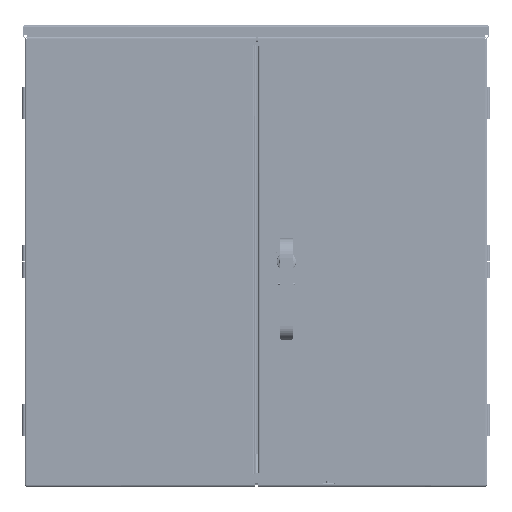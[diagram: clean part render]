
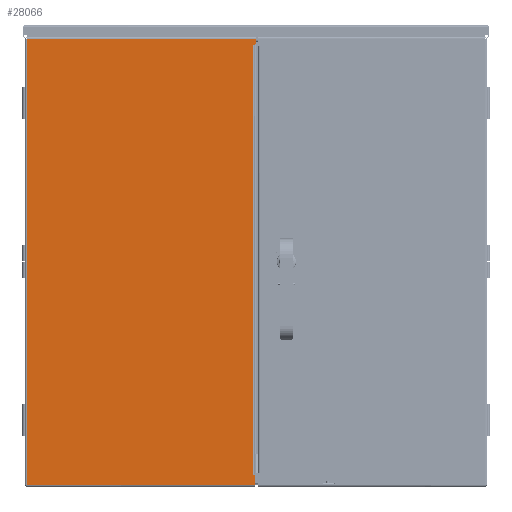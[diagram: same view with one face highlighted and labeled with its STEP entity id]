
A CAD part, top view. The second image highlights one B-rep face of the part: STEP entity #28066.
In plain terms, the highlighted planar face has unit normal (0, 0, 1).
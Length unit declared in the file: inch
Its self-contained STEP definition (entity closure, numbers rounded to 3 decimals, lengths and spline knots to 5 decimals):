
#349 = FACE_OUTER_BOUND ( 'NONE', #35781, .T. ) ;
#12725 = CARTESIAN_POINT ( 'NONE',  ( -9.0875, -17.675, 0. ) ) ;
#12730 = PLANE ( 'NONE',  #56717 ) ;
#12735 = DIRECTION ( 'NONE',  ( 0., 0., 1. ) ) ;
#12736 = DIRECTION ( 'NONE',  ( 1., 0., 0. ) ) ;
#28066 = ADVANCED_FACE ( 'NONE', ( #349 ), #12730, .T. ) ;
#32829 = VERTEX_POINT ( 'NONE', #67782 ) ;
#32831 = VERTEX_POINT ( 'NONE', #67783 ) ;
#32855 = VERTEX_POINT ( 'NONE', #67795 ) ;
#32857 = VERTEX_POINT ( 'NONE', #67796 ) ;
#32859 = VERTEX_POINT ( 'NONE', #67797 ) ;
#32861 = VERTEX_POINT ( 'NONE', #67798 ) ;
#32863 = VERTEX_POINT ( 'NONE', #67799 ) ;
#32865 = VERTEX_POINT ( 'NONE', #67800 ) ;
#32867 = VERTEX_POINT ( 'NONE', #67801 ) ;
#32869 = VERTEX_POINT ( 'NONE', #67802 ) ;
#35189 = ORIENTED_EDGE ( 'NONE', *, *, #36688, .T. ) ;
#35190 = ORIENTED_EDGE ( 'NONE', *, *, #36687, .T. ) ;
#35191 = ORIENTED_EDGE ( 'NONE', *, *, #36684, .T. ) ;
#35192 = ORIENTED_EDGE ( 'NONE', *, *, #36689, .T. ) ;
#35193 = ORIENTED_EDGE ( 'NONE', *, *, #36685, .T. ) ;
#35194 = ORIENTED_EDGE ( 'NONE', *, *, #36674, .T. ) ;
#35195 = ORIENTED_EDGE ( 'NONE', *, *, #36690, .T. ) ;
#35196 = ORIENTED_EDGE ( 'NONE', *, *, #36692, .T. ) ;
#35197 = ORIENTED_EDGE ( 'NONE', *, *, #36686, .T. ) ;
#35198 = ORIENTED_EDGE ( 'NONE', *, *, #36691, .T. ) ;
#35781 = EDGE_LOOP ( 'NONE', ( #35189, #35190, #35191, #35192, #35193, #35194, #35195, #35196, #35197, #35198 ) ) ;
#36674 = EDGE_CURVE ( 'NONE', #32829, #32831, #60042, .T. ) ;
#36684 = EDGE_CURVE ( 'NONE', #32859, #32861, #60065, .T. ) ;
#36685 = EDGE_CURVE ( 'NONE', #32863, #32829, #60067, .T. ) ;
#36686 = EDGE_CURVE ( 'NONE', #32867, #32869, #60069, .T. ) ;
#36687 = EDGE_CURVE ( 'NONE', #32857, #32859, #60071, .T. ) ;
#36688 = EDGE_CURVE ( 'NONE', #32855, #32857, #60073, .T. ) ;
#36689 = EDGE_CURVE ( 'NONE', #32861, #32863, #60075, .T. ) ;
#36690 = EDGE_CURVE ( 'NONE', #32831, #32865, #60077, .T. ) ;
#36691 = EDGE_CURVE ( 'NONE', #32869, #32855, #60079, .T. ) ;
#36692 = EDGE_CURVE ( 'NONE', #32865, #32867, #60081, .T. ) ;
#56717 = AXIS2_PLACEMENT_3D ( 'NONE', #12725, #12735, #12736 ) ;
#60038 = VECTOR ( 'NONE', #68755, 39.37008 ) ;
#60042 = LINE ( 'NONE', #68754, #60038 ) ;
#60065 = LINE ( 'NONE', #68774, #60066 ) ;
#60066 = VECTOR ( 'NONE', #68775, 39.37008 ) ;
#60067 = LINE ( 'NONE', #68776, #60068 ) ;
#60068 = VECTOR ( 'NONE', #68777, 39.37008 ) ;
#60069 = LINE ( 'NONE', #68778, #60070 ) ;
#60070 = VECTOR ( 'NONE', #68779, 39.37008 ) ;
#60071 = LINE ( 'NONE', #68780, #60072 ) ;
#60072 = VECTOR ( 'NONE', #68781, 39.37008 ) ;
#60073 = LINE ( 'NONE', #68782, #60074 ) ;
#60074 = VECTOR ( 'NONE', #68783, 39.37008 ) ;
#60075 = LINE ( 'NONE', #68784, #60076 ) ;
#60076 = VECTOR ( 'NONE', #68785, 39.37008 ) ;
#60077 = LINE ( 'NONE', #68786, #60078 ) ;
#60078 = VECTOR ( 'NONE', #68787, 39.37008 ) ;
#60079 = LINE ( 'NONE', #68788, #60080 ) ;
#60080 = VECTOR ( 'NONE', #68789, 39.37008 ) ;
#60081 = LINE ( 'NONE', #68790, #60082 ) ;
#60082 = VECTOR ( 'NONE', #68791, 39.37008 ) ;
#67782 = CARTESIAN_POINT ( 'NONE',  ( 8.8355, 17.04, 0. ) ) ;
#67783 = CARTESIAN_POINT ( 'NONE',  ( 8.9865, 17.04, 0. ) ) ;
#67795 = CARTESIAN_POINT ( 'NONE',  ( -8.9355, 17.523, 0. ) ) ;
#67796 = CARTESIAN_POINT ( 'NONE',  ( -8.9355, -17.523, 0. ) ) ;
#67797 = CARTESIAN_POINT ( 'NONE',  ( 8.9875, -17.523, 0. ) ) ;
#67798 = CARTESIAN_POINT ( 'NONE',  ( 8.9875, -16.74034, 0. ) ) ;
#67799 = CARTESIAN_POINT ( 'NONE',  ( 8.8355, -16.74034, 0. ) ) ;
#67800 = CARTESIAN_POINT ( 'NONE',  ( 8.9865, 17.105, 0. ) ) ;
#67801 = CARTESIAN_POINT ( 'NONE',  ( 9.0875, 17.105, 0. ) ) ;
#67802 = CARTESIAN_POINT ( 'NONE',  ( 9.0875, 17.523, 0. ) ) ;
#68754 = CARTESIAN_POINT ( 'NONE',  ( -9.0875, 17.04, 0. ) ) ;
#68755 = DIRECTION ( 'NONE',  ( 1., 0., 0. ) ) ;
#68774 = CARTESIAN_POINT ( 'NONE',  ( 8.9875, -17.675, 0. ) ) ;
#68775 = DIRECTION ( 'NONE',  ( 0., 1., 0. ) ) ;
#68776 = CARTESIAN_POINT ( 'NONE',  ( 8.8355, -16.74034, 0. ) ) ;
#68777 = DIRECTION ( 'NONE',  ( 0., 1., 0. ) ) ;
#68778 = CARTESIAN_POINT ( 'NONE',  ( 9.0875, 17.675, 0. ) ) ;
#68779 = DIRECTION ( 'NONE',  ( 0., 1., 0. ) ) ;
#68780 = CARTESIAN_POINT ( 'NONE',  ( -9.01543, -17.523, 0. ) ) ;
#68781 = DIRECTION ( 'NONE',  ( 1., 0., 0. ) ) ;
#68782 = CARTESIAN_POINT ( 'NONE',  ( -8.9355, 17.60293, 0. ) ) ;
#68783 = DIRECTION ( 'NONE',  ( 0., -1., 0. ) ) ;
#68784 = CARTESIAN_POINT ( 'NONE',  ( -9.0875, -16.74034, 0. ) ) ;
#68785 = DIRECTION ( 'NONE',  ( -1., 0., 0. ) ) ;
#68786 = CARTESIAN_POINT ( 'NONE',  ( 8.9865, 17.04, 0. ) ) ;
#68787 = DIRECTION ( 'NONE',  ( 0., 1., 0. ) ) ;
#68788 = CARTESIAN_POINT ( 'NONE',  ( 9.0875, 17.523, 0. ) ) ;
#68789 = DIRECTION ( 'NONE',  ( -1., 0., 0. ) ) ;
#68790 = CARTESIAN_POINT ( 'NONE',  ( 8.9865, 17.105, 0. ) ) ;
#68791 = DIRECTION ( 'NONE',  ( 1., 0., 0. ) ) ;
